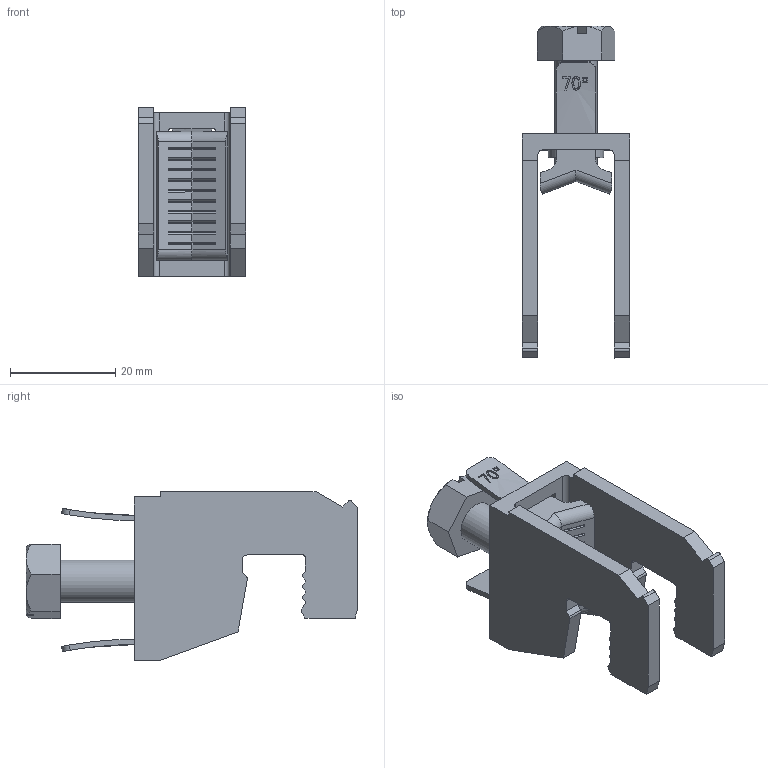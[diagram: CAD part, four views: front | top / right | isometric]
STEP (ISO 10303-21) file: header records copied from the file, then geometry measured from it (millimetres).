
FILE_DESCRIPTION (( 'STEP AP203' ), '1' );
FILE_NAME ('54292.STEP', '2021-08-13T05:17:56', ( '' ), ( '' ), 'SwSTEP 2.0', 'SolidWorks 2017', '' );
FILE_SCHEMA (( 'CONFIG_CONTROL_DESIGN' ));
Length unit declared in the file: millimetre
Products named in the file (2): 54292
Bounding box: 20.5 x 63.01 x 32 mm (x, y, z)
Volume: 9742.9 mm3; surface area: 8557.6 mm2
Topology: 3 solids, 3 shells, 361 faces, 953 edges, 620 vertices
Faces by surface type: plane 242, cylinder 68, bspline 43, cone 8
Full cylindrical faces by diameter (mm): 7 x1, 8 x1, 10.5 x1
Entity records: 13489 total; most frequent: CARTESIAN_POINT 4692, ORIENTED_EDGE 1896, DIRECTION 1594, EDGE_CURVE 948, VECTOR 690, LINE 690, VERTEX_POINT 620, AXIS2_PLACEMENT_3D 452
